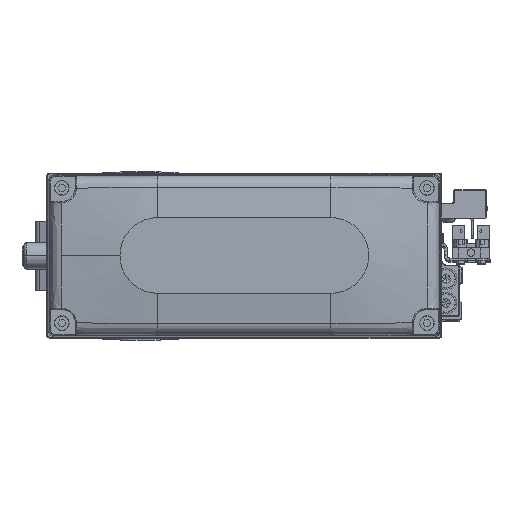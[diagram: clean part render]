
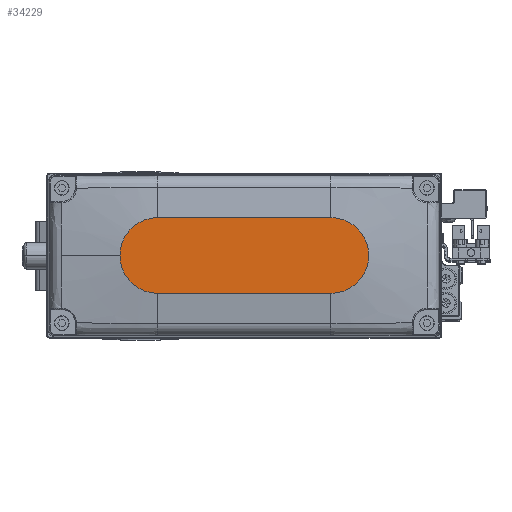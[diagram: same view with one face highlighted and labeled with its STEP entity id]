
A CAD part, top view. The second image highlights one B-rep face of the part: STEP entity #34229.
In plain terms, the highlighted planar face has unit normal (0, 0, 1).
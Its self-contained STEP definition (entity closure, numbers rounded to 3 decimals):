
#3233 = CIRCLE ( 'NONE', #28611, 14. ) ;
#3402 = VERTEX_POINT ( 'NONE', #15385 ) ;
#4285 = ORIENTED_EDGE ( 'NONE', *, *, #42640, .T. ) ;
#4419 = AXIS2_PLACEMENT_3D ( 'NONE', #11482, #25330, #39145 ) ;
#4608 = VECTOR ( 'NONE', #9748, 1000. ) ;
#6193 = CARTESIAN_POINT ( 'NONE',  ( 32., 14., 35. ) ) ;
#6351 = VERTEX_POINT ( 'NONE', #31018 ) ;
#6696 = DIRECTION ( 'NONE',  ( 1., 0., 0. ) ) ;
#6932 = VERTEX_POINT ( 'NONE', #6193 ) ;
#7609 = DIRECTION ( 'NONE',  ( 1., 0., 0. ) ) ;
#9171 = DIRECTION ( 'NONE',  ( -1., 0., 0. ) ) ;
#9748 = DIRECTION ( 'NONE',  ( 1., 0., 0. ) ) ;
#10090 = PLANE ( 'NONE',  #16495 ) ;
#11075 = ORIENTED_EDGE ( 'NONE', *, *, #21311, .T. ) ;
#11482 = CARTESIAN_POINT ( 'NONE',  ( 32., 0., 35. ) ) ;
#12526 = DIRECTION ( 'NONE',  ( 1., 0., 0. ) ) ;
#15385 = CARTESIAN_POINT ( 'NONE',  ( -32., 14., 35. ) ) ;
#16495 = AXIS2_PLACEMENT_3D ( 'NONE', #23934, #37757, #6696 ) ;
#18203 = CIRCLE ( 'NONE', #4419, 14. ) ;
#18689 = VERTEX_POINT ( 'NONE', #29889 ) ;
#18803 = AXIS2_PLACEMENT_3D ( 'NONE', #24861, #38677, #7609 ) ;
#20151 = VECTOR ( 'NONE', #9171, 1000. ) ;
#20759 = EDGE_LOOP ( 'NONE', ( #41527, #42122, #11075, #38278, #4285 ) ) ;
#21311 = EDGE_CURVE ( 'NONE', #42431, #6351, #27008, .T. ) ;
#23934 = CARTESIAN_POINT ( 'NONE',  ( 0., 0., 35. ) ) ;
#24861 = CARTESIAN_POINT ( 'NONE',  ( 32., 0., 35. ) ) ;
#25330 = DIRECTION ( 'NONE',  ( 0., 0., 1. ) ) ;
#25569 = EDGE_CURVE ( 'NONE', #6932, #3402, #26423, .T. ) ;
#26311 = CARTESIAN_POINT ( 'NONE',  ( -32., -14., 35. ) ) ;
#26423 = LINE ( 'NONE', #40223, #20151 ) ;
#27008 = LINE ( 'NONE', #40808, #4608 ) ;
#28611 = AXIS2_PLACEMENT_3D ( 'NONE', #29788, #43584, #12526 ) ;
#29788 = CARTESIAN_POINT ( 'NONE',  ( -32., 0., 35. ) ) ;
#29889 = CARTESIAN_POINT ( 'NONE',  ( 46., 0., 35. ) ) ;
#30374 = EDGE_CURVE ( 'NONE', #6351, #18689, #18203, .T. ) ;
#31018 = CARTESIAN_POINT ( 'NONE',  ( 32., -14., 35. ) ) ;
#34229 = ADVANCED_FACE ( 'NONE', ( #41144 ), #10090, .T. ) ;
#37757 = DIRECTION ( 'NONE',  ( 0., 0., 1. ) ) ;
#38278 = ORIENTED_EDGE ( 'NONE', *, *, #30374, .T. ) ;
#38338 = CIRCLE ( 'NONE', #18803, 14. ) ;
#38677 = DIRECTION ( 'NONE',  ( 0., 0., 1. ) ) ;
#39145 = DIRECTION ( 'NONE',  ( 1., 0., 0. ) ) ;
#40223 = CARTESIAN_POINT ( 'NONE',  ( -32., 14., 35. ) ) ;
#40808 = CARTESIAN_POINT ( 'NONE',  ( -32., -14., 35. ) ) ;
#41144 = FACE_OUTER_BOUND ( 'NONE', #20759, .T. ) ;
#41527 = ORIENTED_EDGE ( 'NONE', *, *, #25569, .T. ) ;
#42122 = ORIENTED_EDGE ( 'NONE', *, *, #44490, .T. ) ;
#42431 = VERTEX_POINT ( 'NONE', #26311 ) ;
#42640 = EDGE_CURVE ( 'NONE', #18689, #6932, #38338, .T. ) ;
#43584 = DIRECTION ( 'NONE',  ( 0., 0., 1. ) ) ;
#44490 = EDGE_CURVE ( 'NONE', #3402, #42431, #3233, .T. ) ;
